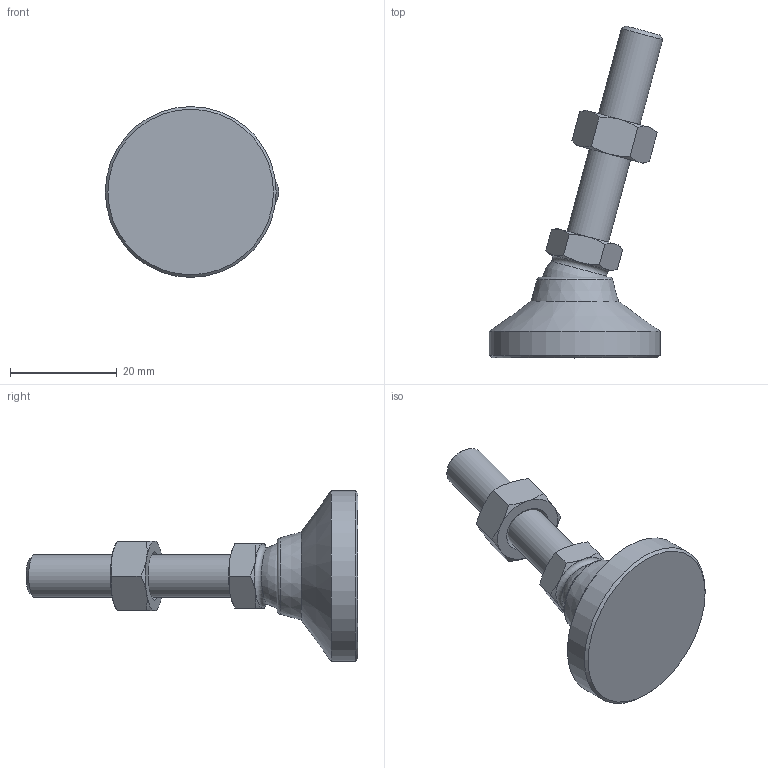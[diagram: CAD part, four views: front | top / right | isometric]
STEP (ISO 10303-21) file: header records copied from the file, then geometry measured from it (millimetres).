
FILE_DESCRIPTION( ( 'STEP AP214' ), ' ' );
FILE_NAME( 'O:/ganter_2015/teil_2/2_5/gn343_2/gn343_2_os/Levelling foot with threaded stud GN 343.2-32-M8-40-OS-(-15).stp', '2015-10-26T09:06:41', ( '' ), ( '' ), ' ', 'PARTsolutions', ' ' );
FILE_SCHEMA( ( 'AUTOMOTIVE_DESIGN { 1 0 10303 214 1 1 1 1 }' ) );
Length unit declared in the file: millimetre
Products named in the file (4): Levelling foot with threaded stud GN 343.2-32-M8-40-OS-(-15); _Levelling foot with threaded stud GN 343.2-32-M8-40-OS-(-15)_foot; _Levelling foot with threaded stud GN 343.2-32-M8-40-OS-(-15)_screw; _Stainless Steel-Levelling feet GN 343.2-32-M8-40-OS-(-15)_nut
Assembly tree (3 placements, depth 2):
  Levelling foot with threaded stud GN 343.2-32-M8-40-OS-(-15)
    _Levelling foot with threaded stud GN 343.2-32-M8-40-OS-(-15)_foot
    _Levelling foot with threaded stud GN 343.2-32-M8-40-OS-(-15)_screw
    _Stainless Steel-Levelling feet GN 343.2-32-M8-40-OS-(-15)_nut
Bounding box: 32.47 x 62.17 x 32 mm (x, y, z)
Volume: 11151.4 mm3; surface area: 4958.9 mm2
Topology: 3 solids, 3 shells, 55 faces, 116 edges, 67 vertices
Faces by surface type: cone 30, plane 18, cylinder 3, torus 2, sphere 2
Full cylindrical faces by diameter (mm): 6.647 x1, 8 x1, 32 x1
Entity records: 2022 total; most frequent: CARTESIAN_POINT 479, DIRECTION 208, ORIENTED_EDGE 198, EDGE_CURVE 99, AXIS2_PLACEMENT_3D 98, EDGE_LOOP 70, VERTEX_POINT 65, FACE_OUTER_BOUND 60
